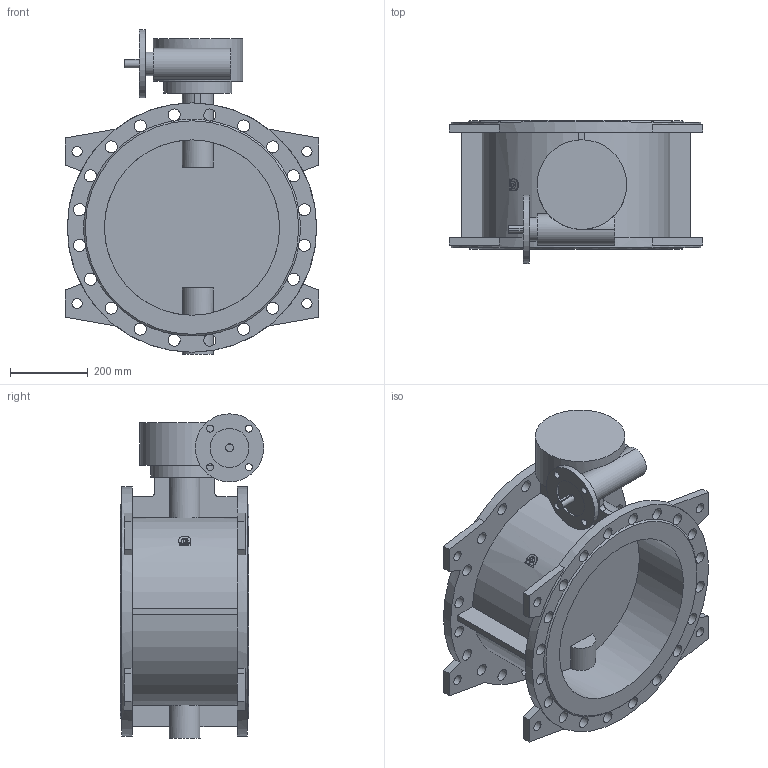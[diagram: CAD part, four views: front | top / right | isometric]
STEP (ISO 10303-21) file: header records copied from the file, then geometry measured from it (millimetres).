
FILE_DESCRIPTION(('STEP AP203'), '1');
FILE_NAME('Çàòâîð 023F.Z DN450 PN16_ð-ð_ôë', '', ('UNSPECIFIED'), ('UNSPECIFIED'), 'ASCON STEP Converter 1.6', 'ASCON Math Kernel', '');
FILE_SCHEMA(('CONFIG_CONTROL_DESIGN'));
Length unit declared in the file: millimetre
Bounding box: 650 x 367.5 x 832.5 mm (x, y, z)
Volume: 31235692.4 mm3; surface area: 2426843.5 mm2
Topology: 1 solids, 1 shells, 187 faces, 604 edges, 402 vertices
Faces by surface type: plane 95, cylinder 90, cone 2
Full cylindrical faces by diameter (mm): 14 x4, 18 x8, 20 x1, 26 x8, 31 x40, 60 x1, 80 x2, 100 x1, 175 x2, 230 x1, 450 x2, 640 x2
Entity records: 11476 total; most frequent: CARTESIAN_POINT 4605, DIRECTION 1117, ORIENTED_EDGE 1052, EDGE_CURVE 526, AXIS2_PLACEMENT_3D 463, VERTEX_POINT 401, EDGE_LOOP 349, CIRCLE 276
